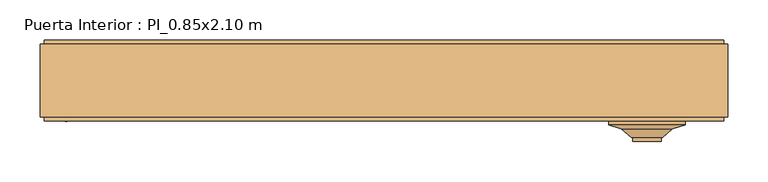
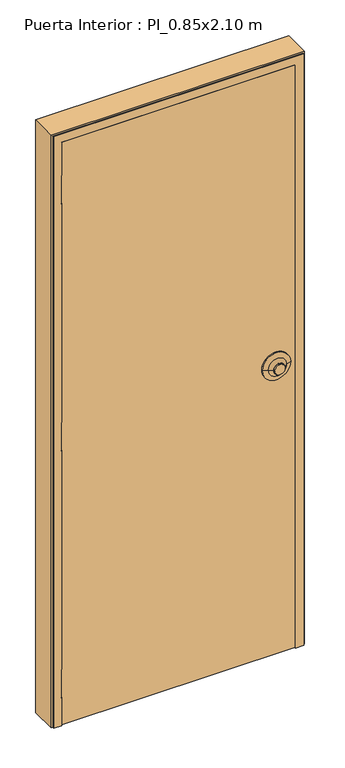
"""IFC4 building model written with IfcOpenShell, lengths in millimetres: door geometry, Puerta Interior : PI_0.85x2.10 m."""

from ifc_helpers import new_model, si_unit, point, frame, frame_2d, origin, place, context, project, spatial, polyline, circle_curve, ellipse_curve, trimmed, segment, composite_curve, outline, extrude, faceted_brep, source, transform, mapped, element, save
from ifc_brep_helpers import plane_surface, cylinder_surface, revolved_surface, advanced_brep


def puerta_interior_pi_0_85x2_10_m_f933acae(model_context):
    return source(origin(), model_context, "Body", "SolidModel", [
        extrude(outline(composite_curve([segment(trimmed(circle_curve(frame_2d((1025.0174632, 325.28125)), 17.5), [point((1025.0174632, 307.78125))], [point((1025.0174632, 342.78125))], False, "CARTESIAN"), True, "CONTINUOUS"), segment(trimmed(circle_curve(frame_2d((1025.0174632, 325.28125)), 17.5), [point((1025.0174632, 342.78125))], [point((1025.0174632, 307.78125))], False, "CARTESIAN"), True, "CONTINUOUS")], self_intersect=False)), frame((0.0, -75.0, 0.0), z_axis=(0.0, 1.0, 0.0), x_axis=(0.0, 0.0, 1.0)), (0.0, 0.0, 1.0), 20.0),
        advanced_brep(
        [(372.78125, -55.0, 1025.0174632), (372.78125, -50.0, 1025.0174632), (277.78125, -50.0, 1025.0174632), (277.78125, -55.0, 1025.0174632), (356.78125, -60.0, 1025.0174632), (293.78125, -60.0, 1025.0174632), (344.9828812, -70.0, 1025.0174632), (305.5796188, -70.0, 1025.0174632), (343.1741787, -70.0, 1025.0174632), (307.3883213, -70.0, 1025.0174632), (343.1741787, -55.0, 1025.0174632), (307.3883213, -55.0, 1025.0174632), (325.28125, -55.0, 1025.0174632), (325.28125, -50.0, 1025.0174632)],
        [
            (0, 1),
            (1, 2, circle_curve(frame((325.28125, -50.0, 1025.0174632), z_axis=(0.0, -1.0, 0.0), x_axis=(-1.0, 0.0, 0.0)), 47.5)),
            (2, 3),
            (3, 0, circle_curve(frame((325.28125, -55.0, 1025.0174632), z_axis=(0.0, 1.0, 0.0), x_axis=(-1.0, 0.0, 0.0)), 47.5)),
            (2, 1, circle_curve(frame((325.28125, -50.0, 1025.0174632), z_axis=(0.0, -1.0, 0.0), x_axis=(-1.0, 0.0, 0.0)), 47.5)),
            (0, 3, circle_curve(frame((325.28125, -55.0, 1025.0174632), z_axis=(0.0, 1.0, 0.0), x_axis=(-1.0, 0.0, 0.0)), 47.5)),
            (4, 0),
            (3, 5),
            (5, 4, circle_curve(frame((325.28125, -60.0, 1025.0174632), z_axis=(0.0, 1.0, 0.0), x_axis=(-1.0, 0.0, 0.0)), 31.5)),
            (4, 5, circle_curve(frame((325.28125, -60.0, 1025.0174632), z_axis=(0.0, 1.0, 0.0), x_axis=(-1.0, 0.0, 0.0)), 31.5)),
            (6, 4),
            (5, 7),
            (7, 6, circle_curve(frame((325.28125, -70.0, 1025.0174632), z_axis=(0.0, 1.0, 0.0), x_axis=(-1.0, 0.0, 0.0)), 19.7016312)),
            (6, 7, circle_curve(frame((325.28125, -70.0, 1025.0174632), z_axis=(0.0, 1.0, 0.0), x_axis=(-1.0, 0.0, 0.0)), 19.7016312)),
            (8, 6),
            (7, 9),
            (9, 8, circle_curve(frame((325.28125, -70.0, 1025.0174632), z_axis=(0.0, 1.0, 0.0), x_axis=(-1.0, 0.0, 0.0)), 17.8929287)),
            (8, 9, circle_curve(frame((325.28125, -70.0, 1025.0174632), z_axis=(0.0, 1.0, 0.0), x_axis=(-1.0, 0.0, 0.0)), 17.8929287)),
            (10, 8),
            (9, 11),
            (11, 10, circle_curve(frame((325.28125, -55.0, 1025.0174632), z_axis=(0.0, 1.0, 0.0), x_axis=(-1.0, 0.0, 0.0)), 17.8929287)),
            (10, 11, circle_curve(frame((325.28125, -55.0, 1025.0174632), z_axis=(0.0, 1.0, 0.0), x_axis=(-1.0, 0.0, 0.0)), 17.8929287)),
            (12, 10),
            (11, 12),
            (1, 13),
            (13, 2),
        ],
        [
            cylinder_surface(frame((325.28125, -50.0, 1025.0174632), z_axis=(0.0, -1.0, 0.0), x_axis=(-1.0, 0.0, 0.0)), 47.5),
            revolved_surface(polyline([(277.78125, -55.0, 1025.0174632), (293.78125, -60.0, 1025.0174632)]), (325.28125, -50.0, 1025.0174632), (0.0, -1.0, 0.0)),
            revolved_surface(polyline([(293.78125, -60.0, 1025.0174632), (305.5796188, -70.0, 1025.0174632)]), (325.28125, -50.0, 1025.0174632), (0.0, -1.0, 0.0)),
            plane_surface(frame((325.28125, -70.0, 1025.0174632), z_axis=(0.0, -1.0, 0.0), x_axis=(-1.0, 0.0, 0.0))),
            revolved_surface(polyline([(307.38832130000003, -70.0, 1025.0174632), (307.38832130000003, -55.0, 1025.0174632)]), (325.28125, -50.0, 1025.0174632), (0.0, -1.0, 0.0)),
            plane_surface(frame((325.28125, -55.0, 1025.0174632), z_axis=(0.0, -1.0, 0.0), x_axis=(-1.0, 0.0, 0.0))),
            plane_surface(frame((325.28125, -50.0, 1025.0174632), z_axis=(0.0, 1.0, 0.0), x_axis=(-1.0, 0.0, 0.0))),
        ],
        [
            (0, [[1, 2, 3, 4]]),
            (0, [[-3, 5, -1, 6]]),
            (1, [[7, -4, 8, 9]]),
            (1, [[-8, -6, -7, 10]]),
            (2, [[11, -9, 12, 13]]),
            (2, [[-12, -10, -11, 14]]),
            (3, [[15, -13, 16, 17]]),
            (3, [[-16, -14, -15, 18]]),
            (4, [[19, -17, 20, 21]]),
            (4, [[-20, -18, -19, 22]]),
            (5, [[23, -21, 24]]),
            (5, [[-24, -22, -23]]),
            (6, [[25, 26, -2]]),
            (6, [[-26, -25, -5]]),
        ],
    ),
        faceted_brep([(425.0, -45.0, 0.0), (420.0, -45.0, 0.0), (420.0, -50.0, 0.0), (392.0, -50.0, 0.0), (392.0, 0.0, 0.0), (375.0, 0.0, 0.0), (375.0, 50.0, 0.0), (420.0, 50.0, 0.0), (420.0, 45.0, 0.0), (425.0, 45.0, 0.0), (425.0, 45.0, 2100.0), (425.0, -45.0, 2100.0), (420.0, 45.0, 2095.0), (-420.0, 45.0, 2095.0), (-420.0, 45.0, 0.0), (-425.0, 45.0, 0.0), (-425.0, 45.0, 2100.0), (420.0, 50.0, 2095.0), (375.0, 50.0, 2050.0), (-375.0, 50.0, 2050.0), (-375.0, 50.0, 0.0), (-420.0, 50.0, 0.0), (-420.0, 50.0, 2095.0), (375.0, 0.0, 2050.0), (392.0, 0.0, 2067.0), (-392.0, 0.0, 2067.0), (-392.0, 0.0, 0.0), (-375.0, 0.0, 0.0), (-375.0, 0.0, 2050.0), (392.0, -50.0, 2067.0), (420.0, -50.0, 2095.0), (-420.0, -50.0, 2095.0), (-420.0, -50.0, 0.0), (-392.0, -50.0, 0.0), (-392.0, -50.0, 100.0349265), (-394.0, -50.0, 100.0349265), (-394.0, -50.0, 200.0349265), (-392.0, -50.0, 200.0349265), (-392.0, -50.0, 975.0174632), (-394.0, -50.0, 975.0174632), (-394.0, -50.0, 1075.0174632), (-392.0, -50.0, 1075.0174632), (-392.0, -50.0, 1850.0), (-394.0, -50.0, 1850.0), (-394.0, -50.0, 1950.0), (-392.0, -50.0, 1950.0), (-392.0, -50.0, 2067.0), (420.0, -45.0, 2095.0), (-425.0, -45.0, 2100.0), (-425.0, -45.0, 0.0), (-420.0, -45.0, 0.0), (-420.0, -45.0, 2095.0), (-392.0, -7.5, 1950.0), (-392.0, -7.5, 1850.0), (-392.0, -7.5, 1075.0174632), (-392.0, -7.5, 975.0174632), (-392.0, -7.5, 200.0349265), (-392.0, -7.5, 100.0349265), (-394.0, -7.5, 100.0349265), (-394.0, -7.5, 200.0349265), (-394.0, -7.5, 975.0174632), (-394.0, -7.5, 1075.0174632), (-394.0, -7.5, 1950.0), (-394.0, -7.5, 1850.0)], [[[0, 1, 2, 3, 4, 5, 6, 7, 8, 9]], [[9, 10, 11, 0]], [[8, 12, 13, 14, 15, 16, 10, 9]], [[7, 17, 12, 8]], [[6, 18, 19, 20, 21, 22, 17, 7]], [[5, 23, 18, 6]], [[4, 24, 25, 26, 27, 28, 23, 5]], [[3, 29, 24, 4]], [[2, 30, 31, 32, 33, 34, 35, 36, 37, 38, 39, 40, 41, 42, 43, 44, 45, 46, 29, 3]], [[1, 47, 30, 2]], [[0, 11, 48, 49, 50, 51, 47, 1]], [[15, 14, 21, 20, 27, 26, 33, 32, 50, 49]], [[16, 15, 49, 48]], [[51, 50, 32, 31]], [[46, 45, 52, 53, 42, 41, 54, 55, 38, 37, 56, 57, 34, 33, 26, 25]], [[28, 27, 20, 19]], [[22, 21, 14, 13]], [[58, 35, 34, 57]], [[58, 57, 56, 59]], [[56, 37, 36, 59]], [[60, 39, 38, 55]], [[60, 55, 54, 61]], [[54, 41, 40, 61]], [[61, 40, 39, 60]], [[59, 36, 35, 58]], [[10, 16, 48, 11]], [[23, 28, 19, 18]], [[29, 46, 25, 24]], [[17, 22, 13, 12]], [[47, 51, 31, 30]], [[62, 44, 43, 63]], [[62, 52, 45, 44]], [[63, 53, 52, 62]], [[43, 42, 53, 63]]]),
        extrude(outline(polyline([(392.0, -48.203125), (392.0, -50.0), (-392.0, -50.0), (-392.0, -48.203125), (392.0, -48.203125)])), frame((0.0, 0.0, 2.5), z_axis=(0.0, 0.0, 1.0), x_axis=(1.0, 0.0, 0.0)), (0.0, 0.0, 1.0), 2064.5),
        advanced_brep(
        [(117.5, 0.0, 395.0087316), (237.0, 0.0, 395.0087316), (237.0, 0.0, 157.5), (117.5, 0.0, 157.5), (312.0, 0.0, 157.5), (257.0, 0.0, 157.5), (257.0, 0.0, 395.0087316), (312.0, 0.0, 395.0087316), (247.0, 0.0, 405.0087316), (247.0, 0.0, 147.5), (107.5, 0.0, 147.5), (107.5, 0.0, 405.0087316), (242.0, 0.0, 152.5), (242.0, 0.0, 400.0087316), (112.5, 0.0, 400.0087316), (112.5, 0.0, 152.5), (37.5, -35.0, 77.5), (317.0, -35.0, 77.5), (317.0, -35.0, 475.0087316), (37.5, -35.0, 475.0087316), (117.5, 5.0, 395.0087316), (117.5, 5.0, 157.5), (37.5, -10.0, 475.0087316), (37.5, -10.0, 77.5), (97.5, 0.0, 415.0087316), (97.5, 0.0, 137.5), (112.5, 5.0, 400.0087316), (112.5, 5.0, 152.5), (237.0, 5.0, 157.5), (317.0, -10.0, 77.5), (257.0, 0.0, 137.5), (242.0, 5.0, 152.5), (237.0, 5.0, 395.0087316), (317.0, -10.0, 475.0087316), (312.0, -9.1666667, 157.5), (312.0, -9.1666667, 395.0087316), (257.0, 0.0, 415.0087316), (242.0, 5.0, 400.0087316)],
        [
            (0, 1),
            (1, 2),
            (2, 3),
            (3, 0),
            (4, 5),
            (5, 6),
            (6, 7),
            (7, 4),
            (8, 9),
            (9, 10),
            (10, 11),
            (11, 8),
            (12, 13),
            (13, 14),
            (14, 15),
            (15, 12),
            (16, 17),
            (17, 18),
            (18, 19),
            (19, 16),
            (20, 0),
            (3, 21),
            (21, 20),
            (22, 23),
            (23, 16),
            (19, 22),
            (22, 24),
            (24, 25),
            (25, 23),
            (24, 11, ellipse_curve(frame((102.5, 0.0, 410.0087316), z_axis=(-0.7071067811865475, 0.0, -0.7071067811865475), x_axis=(-0.7071067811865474, 0.0, 0.7071067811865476)), 7.0710678, 5.0)),
            (10, 25, ellipse_curve(frame((102.5, 0.0, 142.5), z_axis=(-0.7071067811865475, 0.0, 0.7071067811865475), x_axis=(0.7071067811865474, 0.0, 0.7071067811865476)), 7.0710678, 5.0)),
            (26, 27),
            (27, 15),
            (14, 26),
            (2, 28),
            (28, 21),
            (23, 29),
            (29, 17),
            (25, 30),
            (30, 29),
            (9, 30, ellipse_curve(frame((252.0, 0.0, 142.5), z_axis=(-0.7071067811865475, 0.0, -0.7071067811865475), x_axis=(-0.7071067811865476, 0.0, 0.7071067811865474)), 7.0710678, 5.0)),
            (27, 31),
            (31, 12),
            (1, 32),
            (32, 28),
            (29, 33),
            (33, 18),
            (30, 5),
            (5, 34),
            (34, 35),
            (35, 6),
            (6, 36),
            (36, 33),
            (8, 36, ellipse_curve(frame((252.0, 0.0, 410.0087316), z_axis=(0.7071067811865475, 0.0, -0.7071067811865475), x_axis=(-0.7071067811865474, 0.0, -0.7071067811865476)), 7.0710678, 5.0)),
            (31, 37),
            (37, 13),
            (20, 32),
            (33, 22),
            (36, 24),
            (37, 26),
            (4, 34),
            (7, 35),
        ],
        [
            plane_surface(frame((117.5, 0.0, 395.0087316), z_axis=(0.0, 1.0, 0.0), x_axis=(0.0, 0.0, -1.0))),
            plane_surface(frame((117.5, -35.0, 395.0087316), z_axis=(0.0, -1.0, 0.0), x_axis=(0.0, 0.0, 1.0))),
            plane_surface(frame((117.5, 5.0, 395.0087316), z_axis=(1.0, 0.0, 0.0), x_axis=(0.0, 0.0, -1.0))),
            plane_surface(frame((37.5, -35.0, 475.0087316), z_axis=(-1.0, 0.0, 0.0), x_axis=(0.0, 0.0, -1.0))),
            plane_surface(frame((37.5, -10.0, 475.0087316), z_axis=(-0.1643989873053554, 0.9863939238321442, 0.0), x_axis=(0.0, 0.0, -1.0))),
            cylinder_surface(frame((102.5, 0.0, 475.0087316), z_axis=(0.0, 0.0, 1.0), x_axis=(0.0, -1.0, 0.0)), 5.0),
            plane_surface(frame((112.5, 0.0, 400.0087316), z_axis=(-1.0, 0.0, 0.0), x_axis=(0.0, 0.0, -1.0))),
            plane_surface(frame((117.5, 5.0, 157.5), z_axis=(0.0, 0.0, 1.0), x_axis=(1.0, 0.0, 0.0))),
            plane_surface(frame((37.5, -35.0, 77.5), z_axis=(0.0, 0.0, -1.0), x_axis=(1.0, 0.0, 0.0))),
            plane_surface(frame((37.5, -10.0, 77.5), z_axis=(0.0, 0.9863939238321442, -0.1643989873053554), x_axis=(1.0, 0.0, 0.0))),
            cylinder_surface(frame((37.5, 0.0, 142.5), z_axis=(-1.0, 0.0, 0.0), x_axis=(0.0, -1.0, 0.0)), 5.0),
            plane_surface(frame((112.5, 0.0, 152.5), z_axis=(0.0, 0.0, -1.0), x_axis=(1.0, 0.0, 0.0))),
            plane_surface(frame((237.0, 5.0, 157.5), z_axis=(-1.0, 0.0, 0.0), x_axis=(0.0, 0.0, 1.0))),
            plane_surface(frame((317.0, -35.0, 77.5), z_axis=(1.0, 0.0, 0.0), x_axis=(0.0, 0.0, 1.0))),
            plane_surface(frame((317.0, -10.0, 77.5), z_axis=(0.1643989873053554, 0.9863939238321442, 0.0), x_axis=(0.0, 0.0, 1.0))),
            cylinder_surface(frame((252.0, 0.0, 77.5), z_axis=(0.0, 0.0, -1.0), x_axis=(0.0, -1.0, 0.0)), 5.0),
            plane_surface(frame((242.0, 0.0, 152.5), z_axis=(1.0, 0.0, 0.0), x_axis=(0.0, 0.0, 1.0))),
            plane_surface(frame((237.0, 5.0, 395.0087316), z_axis=(0.0, 0.0, -1.0), x_axis=(-1.0, 0.0, 0.0))),
            plane_surface(frame((317.0, -35.0, 475.0087316), z_axis=(0.0, 0.0, 1.0), x_axis=(-1.0, 0.0, 0.0))),
            plane_surface(frame((317.0, -10.0, 475.0087316), z_axis=(0.0, 0.9863939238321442, 0.1643989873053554), x_axis=(-1.0, 0.0, 0.0))),
            cylinder_surface(frame((317.0, 0.0, 410.0087316), z_axis=(1.0, 0.0, 0.0), x_axis=(0.0, -1.0, 0.0)), 5.0),
            plane_surface(frame((242.0, 0.0, 400.0087316), z_axis=(0.0, 0.0, 1.0), x_axis=(-1.0, 0.0, 0.0))),
            plane_surface(frame((242.0, 5.0, 400.0087316), z_axis=(0.0, 1.0, 0.0), x_axis=(-1.0, 0.0, 0.0))),
            plane_surface(frame((117.5, 0.0, 157.5), z_axis=(0.0, 0.0, -1.0), x_axis=(0.0, -1.0, 0.0))),
            plane_surface(frame((312.0, 0.0, 157.5), z_axis=(1.0, 0.0, 0.0), x_axis=(0.0, -1.0, 0.0))),
            plane_surface(frame((312.0, 0.0, 395.0087316), z_axis=(0.0, 0.0, 1.0), x_axis=(0.0, -1.0, 0.0))),
        ],
        [
            (0, [[1, 2, 3, 4]]),
            (0, [[5, 6, 7, 8]]),
            (0, [[9, 10, 11, 12], [13, 14, 15, 16]]),
            (1, [[17, 18, 19, 20]]),
            (2, [[21, -4, 22, 23]]),
            (3, [[24, 25, -20, 26]]),
            (4, [[27, 28, 29, -24]]),
            (5, [[30, -11, 31, -28]]),
            (6, [[32, 33, -15, 34]]),
            (7, [[-22, -3, 35, 36]]),
            (8, [[37, 38, -17, -25]]),
            (9, [[39, 40, -37, -29]]),
            (10, [[-10, 41, -39, -31]]),
            (11, [[42, 43, -16, -33]]),
            (12, [[-35, -2, 44, 45]]),
            (13, [[46, 47, -18, -38]]),
            (14, [[48, 49, 50, 51, 52, 53, -46, -40]]),
            (15, [[54, -52, -6, -48, -41, -9]]),
            (16, [[55, 56, -13, -43]]),
            (17, [[-44, -1, -21, 57]]),
            (18, [[-19, -47, 58, -26]]),
            (19, [[-58, -53, 59, -27]]),
            (20, [[-59, -54, -12, -30]]),
            (21, [[-14, -56, 60, -34]]),
            (22, [[-60, -55, -42, -32], [-36, -45, -57, -23]]),
            (23, [[61, -49, -5]]),
            (24, [[62, -50, -61, -8]]),
            (25, [[-51, -62, -7]]),
        ],
    ),
        advanced_brep(
        [(-237.0, 0.0, 395.0087316), (-117.5, 0.0, 395.0087316), (-117.5, 0.0, 157.5), (-237.0, 0.0, 157.5), (-317.0, -35.0, 77.5), (-37.5, -35.0, 77.5), (-37.5, -35.0, 475.0087316), (-317.0, -35.0, 475.0087316), (-237.0, 5.0, 395.0087316), (-237.0, 5.0, 157.5), (-317.0, -10.0, 475.0087316), (-317.0, -10.0, 77.5), (-257.0, 0.0, 415.0087316), (-257.0, 0.0, 137.5), (-247.0, 0.0, 405.0087316), (-247.0, 0.0, 147.5), (-242.0, 5.0, 400.0087316), (-242.0, 5.0, 152.5), (-242.0, 0.0, 152.5), (-242.0, 0.0, 400.0087316), (-117.5, 5.0, 157.5), (-37.5, -10.0, 77.5), (-97.5, 0.0, 137.5), (-107.5, 0.0, 147.5), (-112.5, 5.0, 152.5), (-112.5, 0.0, 152.5), (-117.5, 5.0, 395.0087316), (-37.5, -10.0, 475.0087316), (-97.5, 0.0, 415.0087316), (-107.5, 0.0, 405.0087316), (-112.5, 5.0, 400.0087316), (-112.5, 0.0, 400.0087316)],
        [
            (0, 1),
            (1, 2),
            (2, 3),
            (3, 0),
            (4, 5),
            (5, 6),
            (6, 7),
            (7, 4),
            (8, 0),
            (3, 9),
            (9, 8),
            (10, 11),
            (11, 4),
            (7, 10),
            (10, 12),
            (12, 13),
            (13, 11),
            (12, 14, ellipse_curve(frame((-252.0, 0.0, 410.0087316), z_axis=(-0.7071067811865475, 0.0, -0.7071067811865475), x_axis=(-0.7071067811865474, 0.0, 0.7071067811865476)), 7.0710678, 5.0)),
            (14, 15),
            (15, 13, ellipse_curve(frame((-252.0, 0.0, 142.5), z_axis=(-0.7071067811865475, 0.0, 0.7071067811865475), x_axis=(0.7071067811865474, 0.0, 0.7071067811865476)), 7.0710678, 5.0)),
            (16, 17),
            (17, 18),
            (18, 19),
            (19, 16),
            (2, 20),
            (20, 9),
            (11, 21),
            (21, 5),
            (13, 22),
            (22, 21),
            (15, 23),
            (23, 22, ellipse_curve(frame((-102.5, 0.0, 142.5), z_axis=(-0.7071067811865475, 0.0, -0.7071067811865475), x_axis=(-0.7071067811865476, 0.0, 0.7071067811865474)), 7.0710678, 5.0)),
            (17, 24),
            (24, 25),
            (25, 18),
            (1, 26),
            (26, 20),
            (21, 27),
            (27, 6),
            (22, 28),
            (28, 27),
            (23, 29),
            (29, 28, ellipse_curve(frame((-102.5, 0.0, 410.0087316), z_axis=(0.7071067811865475, 0.0, -0.7071067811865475), x_axis=(-0.7071067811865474, 0.0, -0.7071067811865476)), 7.0710678, 5.0)),
            (24, 30),
            (30, 31),
            (31, 25),
            (8, 26),
            (27, 10),
            (28, 12),
            (29, 14),
            (31, 19),
            (30, 16),
        ],
        [
            plane_surface(frame((-237.0, 0.0, 395.0087316), z_axis=(0.0, 1.0, 0.0), x_axis=(0.0, 0.0, -1.0))),
            plane_surface(frame((-237.0, -35.0, 395.0087316), z_axis=(0.0, -1.0, 0.0), x_axis=(0.0, 0.0, 1.0))),
            plane_surface(frame((-237.0, 5.0, 395.0087316), z_axis=(1.0, 0.0, 0.0), x_axis=(0.0, 0.0, -1.0))),
            plane_surface(frame((-317.0, -35.0, 475.0087316), z_axis=(-1.0, 0.0, 0.0), x_axis=(0.0, 0.0, -1.0))),
            plane_surface(frame((-317.0, -10.0, 475.0087316), z_axis=(-0.1643989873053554, 0.9863939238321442, 0.0), x_axis=(0.0, 0.0, -1.0))),
            cylinder_surface(frame((-252.0, 0.0, 475.0087316), z_axis=(0.0, 0.0, 1.0), x_axis=(0.0, -1.0, 0.0)), 5.0),
            plane_surface(frame((-242.0, 0.0, 400.0087316), z_axis=(-1.0, 0.0, 0.0), x_axis=(0.0, 0.0, -1.0))),
            plane_surface(frame((-237.0, 5.0, 157.5), z_axis=(0.0, 0.0, 1.0), x_axis=(1.0, 0.0, 0.0))),
            plane_surface(frame((-317.0, -35.0, 77.5), z_axis=(0.0, 0.0, -1.0), x_axis=(1.0, 0.0, 0.0))),
            plane_surface(frame((-317.0, -10.0, 77.5), z_axis=(0.0, 0.9863939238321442, -0.1643989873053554), x_axis=(1.0, 0.0, 0.0))),
            cylinder_surface(frame((-317.0, 0.0, 142.5), z_axis=(-1.0, 0.0, 0.0), x_axis=(0.0, -1.0, 0.0)), 5.0),
            plane_surface(frame((-242.0, 0.0, 152.5), z_axis=(0.0, 0.0, -1.0), x_axis=(1.0, 0.0, 0.0))),
            plane_surface(frame((-117.5, 5.0, 157.5), z_axis=(-1.0, 0.0, 0.0), x_axis=(0.0, 0.0, 1.0))),
            plane_surface(frame((-37.5, -35.0, 77.5), z_axis=(1.0, 0.0, 0.0), x_axis=(0.0, 0.0, 1.0))),
            plane_surface(frame((-37.5, -10.0, 77.5), z_axis=(0.1643989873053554, 0.9863939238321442, 0.0), x_axis=(0.0, 0.0, 1.0))),
            cylinder_surface(frame((-102.5, 0.0, 77.5), z_axis=(0.0, 0.0, -1.0), x_axis=(0.0, -1.0, 0.0)), 5.0),
            plane_surface(frame((-112.5, 0.0, 152.5), z_axis=(1.0, 0.0, 0.0), x_axis=(0.0, 0.0, 1.0))),
            plane_surface(frame((-117.5, 5.0, 395.0087316), z_axis=(0.0, 0.0, -1.0), x_axis=(-1.0, 0.0, 0.0))),
            plane_surface(frame((-37.5, -35.0, 475.0087316), z_axis=(0.0, 0.0, 1.0), x_axis=(-1.0, 0.0, 0.0))),
            plane_surface(frame((-37.5, -10.0, 475.0087316), z_axis=(0.0, 0.9863939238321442, 0.1643989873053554), x_axis=(-1.0, 0.0, 0.0))),
            cylinder_surface(frame((-37.5, 0.0, 410.0087316), z_axis=(1.0, 0.0, 0.0), x_axis=(0.0, -1.0, 0.0)), 5.0),
            plane_surface(frame((-107.5, 0.0, 405.0087316), z_axis=(0.0, 1.0, 0.0), x_axis=(-1.0, 0.0, 0.0))),
            plane_surface(frame((-112.5, 0.0, 400.0087316), z_axis=(0.0, 0.0, 1.0), x_axis=(-1.0, 0.0, 0.0))),
            plane_surface(frame((-112.5, 5.0, 400.0087316), z_axis=(0.0, 1.0, 0.0), x_axis=(-1.0, 0.0, 0.0))),
        ],
        [
            (0, [[1, 2, 3, 4]]),
            (1, [[5, 6, 7, 8]]),
            (2, [[9, -4, 10, 11]]),
            (3, [[12, 13, -8, 14]]),
            (4, [[15, 16, 17, -12]]),
            (5, [[18, 19, 20, -16]]),
            (6, [[21, 22, 23, 24]]),
            (7, [[-10, -3, 25, 26]]),
            (8, [[27, 28, -5, -13]]),
            (9, [[29, 30, -27, -17]]),
            (10, [[31, 32, -29, -20]]),
            (11, [[33, 34, 35, -22]]),
            (12, [[-25, -2, 36, 37]]),
            (13, [[38, 39, -6, -28]]),
            (14, [[40, 41, -38, -30]]),
            (15, [[42, 43, -40, -32]]),
            (16, [[44, 45, 46, -34]]),
            (17, [[-36, -1, -9, 47]]),
            (18, [[-7, -39, 48, -14]]),
            (19, [[-48, -41, 49, -15]]),
            (20, [[-49, -43, 50, -18]]),
            (21, [[-50, -42, -31, -19], [-35, -46, 51, -23]]),
            (22, [[-51, -45, 52, -24]]),
            (23, [[-52, -44, -33, -21], [-26, -37, -47, -11]]),
        ],
    ),
        advanced_brep(
        [(-237.0, 0.0, 907.5174632), (-117.5, 0.0, 907.5174632), (-117.5, 0.0, 630.0087316), (-237.0, 0.0, 630.0087316), (-317.0, -35.0, 550.0087316), (-37.5, -35.0, 550.0087316), (-37.5, -35.0, 987.5174632), (-317.0, -35.0, 987.5174632), (-237.0, 5.0, 907.5174632), (-237.0, 5.0, 630.0087316), (-317.0, -10.0, 987.5174632), (-317.0, -10.0, 550.0087316), (-257.0, 0.0, 927.5174632), (-257.0, 0.0, 610.0087316), (-247.0, 0.0, 917.5174632), (-247.0, 0.0, 620.0087316), (-242.0, 5.0, 912.5174632), (-242.0, 5.0, 625.0087316), (-242.0, 0.0, 625.0087316), (-242.0, 0.0, 912.5174632), (-117.5, 5.0, 630.0087316), (-37.5, -10.0, 550.0087316), (-97.5, 0.0, 610.0087316), (-107.5, 0.0, 620.0087316), (-112.5, 5.0, 625.0087316), (-112.5, 0.0, 625.0087316), (-117.5, 5.0, 907.5174632), (-37.5, -10.0, 987.5174632), (-97.5, 0.0, 927.5174632), (-107.5, 0.0, 917.5174632), (-112.5, 5.0, 912.5174632), (-112.5, 0.0, 912.5174632)],
        [
            (0, 1),
            (1, 2),
            (2, 3),
            (3, 0),
            (4, 5),
            (5, 6),
            (6, 7),
            (7, 4),
            (8, 0),
            (3, 9),
            (9, 8),
            (10, 11),
            (11, 4),
            (7, 10),
            (10, 12),
            (12, 13),
            (13, 11),
            (12, 14, ellipse_curve(frame((-252.0, 0.0, 922.5174632), z_axis=(-0.7071067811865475, 0.0, -0.7071067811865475), x_axis=(-0.7071067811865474, 0.0, 0.7071067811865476)), 7.0710678, 5.0)),
            (14, 15),
            (15, 13, ellipse_curve(frame((-252.0, 0.0, 615.0087316), z_axis=(-0.7071067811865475, 0.0, 0.7071067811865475), x_axis=(0.7071067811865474, 0.0, 0.7071067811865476)), 7.0710678, 5.0)),
            (16, 17),
            (17, 18),
            (18, 19),
            (19, 16),
            (2, 20),
            (20, 9),
            (11, 21),
            (21, 5),
            (13, 22),
            (22, 21),
            (15, 23),
            (23, 22, ellipse_curve(frame((-102.5, 0.0, 615.0087316), z_axis=(-0.7071067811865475, 0.0, -0.7071067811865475), x_axis=(-0.7071067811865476, 0.0, 0.7071067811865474)), 7.0710678, 5.0)),
            (17, 24),
            (24, 25),
            (25, 18),
            (1, 26),
            (26, 20),
            (21, 27),
            (27, 6),
            (22, 28),
            (28, 27),
            (23, 29),
            (29, 28, ellipse_curve(frame((-102.5, 0.0, 922.5174632), z_axis=(0.7071067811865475, 0.0, -0.7071067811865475), x_axis=(-0.7071067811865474, 0.0, -0.7071067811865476)), 7.0710678, 5.0)),
            (24, 30),
            (30, 31),
            (31, 25),
            (8, 26),
            (27, 10),
            (28, 12),
            (29, 14),
            (31, 19),
            (30, 16),
        ],
        [
            plane_surface(frame((-237.0, 0.0, 907.5174632), z_axis=(0.0, 1.0, 0.0), x_axis=(0.0, 0.0, -1.0))),
            plane_surface(frame((-237.0, -35.0, 907.5174632), z_axis=(0.0, -1.0, 0.0), x_axis=(0.0, 0.0, 1.0))),
            plane_surface(frame((-237.0, 5.0, 907.5174632), z_axis=(1.0, 0.0, 0.0), x_axis=(0.0, 0.0, -1.0))),
            plane_surface(frame((-317.0, -35.0, 987.5174632), z_axis=(-1.0, 0.0, 0.0), x_axis=(0.0, 0.0, -1.0))),
            plane_surface(frame((-317.0, -10.0, 987.5174632), z_axis=(-0.1643989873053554, 0.9863939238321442, 0.0), x_axis=(0.0, 0.0, -1.0))),
            cylinder_surface(frame((-252.0, 0.0, 987.5174632), z_axis=(0.0, 0.0, 1.0), x_axis=(0.0, -1.0, 0.0)), 5.0),
            plane_surface(frame((-242.0, 0.0, 912.5174632), z_axis=(-1.0, 0.0, 0.0), x_axis=(0.0, 0.0, -1.0))),
            plane_surface(frame((-237.0, 5.0, 630.0087316), z_axis=(0.0, 0.0, 1.0), x_axis=(1.0, 0.0, 0.0))),
            plane_surface(frame((-317.0, -35.0, 550.0087316), z_axis=(0.0, 0.0, -1.0), x_axis=(1.0, 0.0, 0.0))),
            plane_surface(frame((-317.0, -10.0, 550.0087316), z_axis=(0.0, 0.9863939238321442, -0.1643989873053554), x_axis=(1.0, 0.0, 0.0))),
            cylinder_surface(frame((-317.0, 0.0, 615.0087316), z_axis=(-1.0, 0.0, 0.0), x_axis=(0.0, -1.0, 0.0)), 5.0),
            plane_surface(frame((-242.0, 0.0, 625.0087316), z_axis=(0.0, 0.0, -1.0), x_axis=(1.0, 0.0, 0.0))),
            plane_surface(frame((-117.5, 5.0, 630.0087316), z_axis=(-1.0, 0.0, 0.0), x_axis=(0.0, 0.0, 1.0))),
            plane_surface(frame((-37.5, -35.0, 550.0087316), z_axis=(1.0, 0.0, 0.0), x_axis=(0.0, 0.0, 1.0))),
            plane_surface(frame((-37.5, -10.0, 550.0087316), z_axis=(0.1643989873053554, 0.9863939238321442, 0.0), x_axis=(0.0, 0.0, 1.0))),
            cylinder_surface(frame((-102.5, 0.0, 550.0087316), z_axis=(0.0, 0.0, -1.0), x_axis=(0.0, -1.0, 0.0)), 5.0),
            plane_surface(frame((-112.5, 0.0, 625.0087316), z_axis=(1.0, 0.0, 0.0), x_axis=(0.0, 0.0, 1.0))),
            plane_surface(frame((-117.5, 5.0, 907.5174632), z_axis=(0.0, 0.0, -1.0), x_axis=(-1.0, 0.0, 0.0))),
            plane_surface(frame((-37.5, -35.0, 987.5174632), z_axis=(0.0, 0.0, 1.0), x_axis=(-1.0, 0.0, 0.0))),
            plane_surface(frame((-37.5, -10.0, 987.5174632), z_axis=(0.0, 0.9863939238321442, 0.1643989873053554), x_axis=(-1.0, 0.0, 0.0))),
            cylinder_surface(frame((-37.5, 0.0, 922.5174632), z_axis=(1.0, 0.0, 0.0), x_axis=(0.0, -1.0, 0.0)), 5.0),
            plane_surface(frame((-107.5, 0.0, 917.5174632), z_axis=(0.0, 1.0, 0.0), x_axis=(-1.0, 0.0, 0.0))),
            plane_surface(frame((-112.5, 0.0, 912.5174632), z_axis=(0.0, 0.0, 1.0), x_axis=(-1.0, 0.0, 0.0))),
            plane_surface(frame((-112.5, 5.0, 912.5174632), z_axis=(0.0, 1.0, 0.0), x_axis=(-1.0, 0.0, 0.0))),
        ],
        [
            (0, [[1, 2, 3, 4]]),
            (1, [[5, 6, 7, 8]]),
            (2, [[9, -4, 10, 11]]),
            (3, [[12, 13, -8, 14]]),
            (4, [[15, 16, 17, -12]]),
            (5, [[18, 19, 20, -16]]),
            (6, [[21, 22, 23, 24]]),
            (7, [[-10, -3, 25, 26]]),
            (8, [[27, 28, -5, -13]]),
            (9, [[29, 30, -27, -17]]),
            (10, [[31, 32, -29, -20]]),
            (11, [[33, 34, 35, -22]]),
            (12, [[-25, -2, 36, 37]]),
            (13, [[38, 39, -6, -28]]),
            (14, [[40, 41, -38, -30]]),
            (15, [[42, 43, -40, -32]]),
            (16, [[44, 45, 46, -34]]),
            (17, [[-36, -1, -9, 47]]),
            (18, [[-7, -39, 48, -14]]),
            (19, [[-48, -41, 49, -15]]),
            (20, [[-49, -43, 50, -18]]),
            (21, [[-50, -42, -31, -19], [-35, -46, 51, -23]]),
            (22, [[-51, -45, 52, -24]]),
            (23, [[-52, -44, -33, -21], [-26, -37, -47, -11]]),
        ],
    ),
        advanced_brep(
        [(117.5, 0.0, 907.5174632), (237.0, 0.0, 907.5174632), (237.0, 0.0, 630.0087316), (117.5, 0.0, 630.0087316), (312.0, 0.0, 630.0087316), (257.0, 0.0, 630.0087316), (257.0, 0.0, 907.5174632), (312.0, 0.0, 907.5174632), (247.0, 0.0, 917.5174632), (247.0, 0.0, 620.0087316), (107.5, 0.0, 620.0087316), (107.5, 0.0, 917.5174632), (242.0, 0.0, 625.0087316), (242.0, 0.0, 912.5174632), (112.5, 0.0, 912.5174632), (112.5, 0.0, 625.0087316), (37.5, -35.0, 550.0087316), (317.0, -35.0, 550.0087316), (317.0, -35.0, 987.5174632), (37.5, -35.0, 987.5174632), (117.5, 5.0, 907.5174632), (117.5, 5.0, 630.0087316), (37.5, -10.0, 987.5174632), (37.5, -10.0, 550.0087316), (97.5, 0.0, 927.5174632), (97.5, 0.0, 610.0087316), (112.5, 5.0, 912.5174632), (112.5, 5.0, 625.0087316), (237.0, 5.0, 630.0087316), (317.0, -10.0, 550.0087316), (257.0, 0.0, 610.0087316), (242.0, 5.0, 625.0087316), (237.0, 5.0, 907.5174632), (317.0, -10.0, 987.5174632), (312.0, -9.1666667, 630.0087316), (312.0, -9.1666667, 907.5174632), (257.0, 0.0, 927.5174632), (242.0, 5.0, 912.5174632)],
        [
            (0, 1),
            (1, 2),
            (2, 3),
            (3, 0),
            (4, 5),
            (5, 6),
            (6, 7),
            (7, 4),
            (8, 9),
            (9, 10),
            (10, 11),
            (11, 8),
            (12, 13),
            (13, 14),
            (14, 15),
            (15, 12),
            (16, 17),
            (17, 18),
            (18, 19),
            (19, 16),
            (20, 0),
            (3, 21),
            (21, 20),
            (22, 23),
            (23, 16),
            (19, 22),
            (22, 24),
            (24, 25),
            (25, 23),
            (24, 11, ellipse_curve(frame((102.5, 0.0, 922.5174632), z_axis=(-0.7071067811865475, 0.0, -0.7071067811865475), x_axis=(-0.7071067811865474, 0.0, 0.7071067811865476)), 7.0710678, 5.0)),
            (10, 25, ellipse_curve(frame((102.5, 0.0, 615.0087316), z_axis=(-0.7071067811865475, 0.0, 0.7071067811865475), x_axis=(0.7071067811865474, 0.0, 0.7071067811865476)), 7.0710678, 5.0)),
            (26, 27),
            (27, 15),
            (14, 26),
            (2, 28),
            (28, 21),
            (23, 29),
            (29, 17),
            (25, 30),
            (30, 29),
            (9, 30, ellipse_curve(frame((252.0, 0.0, 615.0087316), z_axis=(-0.7071067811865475, 0.0, -0.7071067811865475), x_axis=(-0.7071067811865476, 0.0, 0.7071067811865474)), 7.0710678, 5.0)),
            (27, 31),
            (31, 12),
            (1, 32),
            (32, 28),
            (29, 33),
            (33, 18),
            (30, 5),
            (5, 34),
            (34, 35),
            (35, 6),
            (6, 36),
            (36, 33),
            (8, 36, ellipse_curve(frame((252.0, 0.0, 922.5174632), z_axis=(0.7071067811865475, 0.0, -0.7071067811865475), x_axis=(-0.7071067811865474, 0.0, -0.7071067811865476)), 7.0710678, 5.0)),
            (31, 37),
            (37, 13),
            (20, 32),
            (33, 22),
            (36, 24),
            (37, 26),
            (4, 34),
            (7, 35),
        ],
        [
            plane_surface(frame((117.5, 0.0, 907.5174632), z_axis=(0.0, 1.0, 0.0), x_axis=(0.0, 0.0, -1.0))),
            plane_surface(frame((117.5, -35.0, 907.5174632), z_axis=(0.0, -1.0, 0.0), x_axis=(0.0, 0.0, 1.0))),
            plane_surface(frame((117.5, 5.0, 907.5174632), z_axis=(1.0, 0.0, 0.0), x_axis=(0.0, 0.0, -1.0))),
            plane_surface(frame((37.5, -35.0, 987.5174632), z_axis=(-1.0, 0.0, 0.0), x_axis=(0.0, 0.0, -1.0))),
            plane_surface(frame((37.5, -10.0, 987.5174632), z_axis=(-0.1643989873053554, 0.9863939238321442, 0.0), x_axis=(0.0, 0.0, -1.0))),
            cylinder_surface(frame((102.5, 0.0, 987.5174632), z_axis=(0.0, 0.0, 1.0), x_axis=(0.0, -1.0, 0.0)), 5.0),
            plane_surface(frame((112.5, 0.0, 912.5174632), z_axis=(-1.0, 0.0, 0.0), x_axis=(0.0, 0.0, -1.0))),
            plane_surface(frame((117.5, 5.0, 630.0087316), z_axis=(0.0, 0.0, 1.0), x_axis=(1.0, 0.0, 0.0))),
            plane_surface(frame((37.5, -35.0, 550.0087316), z_axis=(0.0, 0.0, -1.0), x_axis=(1.0, 0.0, 0.0))),
            plane_surface(frame((37.5, -10.0, 550.0087316), z_axis=(0.0, 0.9863939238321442, -0.1643989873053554), x_axis=(1.0, 0.0, 0.0))),
            cylinder_surface(frame((37.5, 0.0, 615.0087316), z_axis=(-1.0, 0.0, 0.0), x_axis=(0.0, -1.0, 0.0)), 5.0),
            plane_surface(frame((112.5, 0.0, 625.0087316), z_axis=(0.0, 0.0, -1.0), x_axis=(1.0, 0.0, 0.0))),
            plane_surface(frame((237.0, 5.0, 630.0087316), z_axis=(-1.0, 0.0, 0.0), x_axis=(0.0, 0.0, 1.0))),
            plane_surface(frame((317.0, -35.0, 550.0087316), z_axis=(1.0, 0.0, 0.0), x_axis=(0.0, 0.0, 1.0))),
            plane_surface(frame((317.0, -10.0, 550.0087316), z_axis=(0.1643989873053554, 0.9863939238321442, 0.0), x_axis=(0.0, 0.0, 1.0))),
            cylinder_surface(frame((252.0, 0.0, 550.0087316), z_axis=(0.0, 0.0, -1.0), x_axis=(0.0, -1.0, 0.0)), 5.0),
            plane_surface(frame((242.0, 0.0, 625.0087316), z_axis=(1.0, 0.0, 0.0), x_axis=(0.0, 0.0, 1.0))),
            plane_surface(frame((237.0, 5.0, 907.5174632), z_axis=(0.0, 0.0, -1.0), x_axis=(-1.0, 0.0, 0.0))),
            plane_surface(frame((317.0, -35.0, 987.5174632), z_axis=(0.0, 0.0, 1.0), x_axis=(-1.0, 0.0, 0.0))),
            plane_surface(frame((317.0, -10.0, 987.5174632), z_axis=(0.0, 0.9863939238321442, 0.1643989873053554), x_axis=(-1.0, 0.0, 0.0))),
            cylinder_surface(frame((317.0, 0.0, 922.5174632), z_axis=(1.0, 0.0, 0.0), x_axis=(0.0, -1.0, 0.0)), 5.0),
            plane_surface(frame((242.0, 0.0, 912.5174632), z_axis=(0.0, 0.0, 1.0), x_axis=(-1.0, 0.0, 0.0))),
            plane_surface(frame((242.0, 5.0, 912.5174632), z_axis=(0.0, 1.0, 0.0), x_axis=(-1.0, 0.0, 0.0))),
            plane_surface(frame((117.5, 0.0, 630.0087316), z_axis=(0.0, 0.0, -1.0), x_axis=(0.0, -1.0, 0.0))),
            plane_surface(frame((312.0, 0.0, 630.0087316), z_axis=(1.0, 0.0, 0.0), x_axis=(0.0, -1.0, 0.0))),
            plane_surface(frame((312.0, 0.0, 907.5174632), z_axis=(0.0, 0.0, 1.0), x_axis=(0.0, -1.0, 0.0))),
        ],
        [
            (0, [[1, 2, 3, 4]]),
            (0, [[5, 6, 7, 8]]),
            (0, [[9, 10, 11, 12], [13, 14, 15, 16]]),
            (1, [[17, 18, 19, 20]]),
            (2, [[21, -4, 22, 23]]),
            (3, [[24, 25, -20, 26]]),
            (4, [[27, 28, 29, -24]]),
            (5, [[30, -11, 31, -28]]),
            (6, [[32, 33, -15, 34]]),
            (7, [[-22, -3, 35, 36]]),
            (8, [[37, 38, -17, -25]]),
            (9, [[39, 40, -37, -29]]),
            (10, [[-10, 41, -39, -31]]),
            (11, [[42, 43, -16, -33]]),
            (12, [[-35, -2, 44, 45]]),
            (13, [[46, 47, -18, -38]]),
            (14, [[48, 49, 50, 51, 52, 53, -46, -40]]),
            (15, [[54, -52, -6, -48, -41, -9]]),
            (16, [[55, 56, -13, -43]]),
            (17, [[-44, -1, -21, 57]]),
            (18, [[-19, -47, 58, -26]]),
            (19, [[-58, -53, 59, -27]]),
            (20, [[-59, -54, -12, -30]]),
            (21, [[-14, -56, 60, -34]]),
            (22, [[-60, -55, -42, -32], [-36, -45, -57, -23]]),
            (23, [[61, -49, -5]]),
            (24, [[62, -50, -61, -8]]),
            (25, [[-51, -62, -7]]),
        ],
    ),
        advanced_brep(
        [(117.5, 0.0, 1445.0087316), (237.0, 0.0, 1445.0087316), (237.0, 0.0, 1142.5174632), (117.5, 0.0, 1142.5174632), (312.0, 0.0, 1142.5174632), (257.0, 0.0, 1142.5174632), (257.0, 0.0, 1445.0087316), (312.0, 0.0, 1445.0087316), (247.0, 0.0, 1455.0087316), (247.0, 0.0, 1132.5174632), (107.5, 0.0, 1132.5174632), (107.5, 0.0, 1455.0087316), (242.0, 0.0, 1137.5174632), (242.0, 0.0, 1450.0087316), (112.5, 0.0, 1450.0087316), (112.5, 0.0, 1137.5174632), (37.5, -35.0, 1062.5174632), (317.0, -35.0, 1062.5174632), (317.0, -35.0, 1525.0087316), (37.5, -35.0, 1525.0087316), (117.5, 5.0, 1445.0087316), (117.5, 5.0, 1142.5174632), (37.5, -10.0, 1525.0087316), (37.5, -10.0, 1062.5174632), (97.5, 0.0, 1465.0087316), (97.5, 0.0, 1122.5174632), (112.5, 5.0, 1450.0087316), (112.5, 5.0, 1137.5174632), (237.0, 5.0, 1142.5174632), (317.0, -10.0, 1062.5174632), (257.0, 0.0, 1122.5174632), (242.0, 5.0, 1137.5174632), (237.0, 5.0, 1445.0087316), (317.0, -10.0, 1525.0087316), (312.0, -9.1666667, 1142.5174632), (312.0, -9.1666667, 1445.0087316), (257.0, 0.0, 1465.0087316), (242.0, 5.0, 1450.0087316)],
        [
            (0, 1),
            (1, 2),
            (2, 3),
            (3, 0),
            (4, 5),
            (5, 6),
            (6, 7),
            (7, 4),
            (8, 9),
            (9, 10),
            (10, 11),
            (11, 8),
            (12, 13),
            (13, 14),
            (14, 15),
            (15, 12),
            (16, 17),
            (17, 18),
            (18, 19),
            (19, 16),
            (20, 0),
            (3, 21),
            (21, 20),
            (22, 23),
            (23, 16),
            (19, 22),
            (22, 24),
            (24, 25),
            (25, 23),
            (24, 11, ellipse_curve(frame((102.5, 0.0, 1460.0087316), z_axis=(-0.7071067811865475, 0.0, -0.7071067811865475), x_axis=(-0.7071067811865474, 0.0, 0.7071067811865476)), 7.0710678, 5.0)),
            (10, 25, ellipse_curve(frame((102.5, 0.0, 1127.5174632), z_axis=(-0.7071067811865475, 0.0, 0.7071067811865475), x_axis=(0.7071067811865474, 0.0, 0.7071067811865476)), 7.0710678, 5.0)),
            (26, 27),
            (27, 15),
            (14, 26),
            (2, 28),
            (28, 21),
            (23, 29),
            (29, 17),
            (25, 30),
            (30, 29),
            (9, 30, ellipse_curve(frame((252.0, 0.0, 1127.5174632), z_axis=(-0.7071067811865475, 0.0, -0.7071067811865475), x_axis=(-0.7071067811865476, 0.0, 0.7071067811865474)), 7.0710678, 5.0)),
            (27, 31),
            (31, 12),
            (1, 32),
            (32, 28),
            (29, 33),
            (33, 18),
            (30, 5),
            (5, 34),
            (34, 35),
            (35, 6),
            (6, 36),
            (36, 33),
            (8, 36, ellipse_curve(frame((252.0, 0.0, 1460.0087316), z_axis=(0.7071067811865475, 0.0, -0.7071067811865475), x_axis=(-0.7071067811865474, 0.0, -0.7071067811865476)), 7.0710678, 5.0)),
            (31, 37),
            (37, 13),
            (20, 32),
            (33, 22),
            (36, 24),
            (37, 26),
            (4, 34),
            (7, 35),
        ],
        [
            plane_surface(frame((117.5, 0.0, 1445.0087316), z_axis=(0.0, 1.0, 0.0), x_axis=(0.0, 0.0, -1.0))),
            plane_surface(frame((117.5, -35.0, 1445.0087316), z_axis=(0.0, -1.0, 0.0), x_axis=(0.0, 0.0, 1.0))),
            plane_surface(frame((117.5, 5.0, 1445.0087316), z_axis=(1.0, 0.0, 0.0), x_axis=(0.0, 0.0, -1.0))),
            plane_surface(frame((37.5, -35.0, 1525.0087316), z_axis=(-1.0, 0.0, 0.0), x_axis=(0.0, 0.0, -1.0))),
            plane_surface(frame((37.5, -10.0, 1525.0087316), z_axis=(-0.1643989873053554, 0.9863939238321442, 0.0), x_axis=(0.0, 0.0, -1.0))),
            cylinder_surface(frame((102.5, 0.0, 1525.0087316), z_axis=(0.0, 0.0, 1.0), x_axis=(0.0, -1.0, 0.0)), 5.0),
            plane_surface(frame((112.5, 0.0, 1450.0087316), z_axis=(-1.0, 0.0, 0.0), x_axis=(0.0, 0.0, -1.0))),
            plane_surface(frame((117.5, 5.0, 1142.5174632), z_axis=(0.0, 0.0, 1.0), x_axis=(1.0, 0.0, 0.0))),
            plane_surface(frame((37.5, -35.0, 1062.5174632), z_axis=(0.0, 0.0, -1.0), x_axis=(1.0, 0.0, 0.0))),
            plane_surface(frame((37.5, -10.0, 1062.5174632), z_axis=(0.0, 0.9863939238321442, -0.1643989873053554), x_axis=(1.0, 0.0, 0.0))),
            cylinder_surface(frame((37.5, 0.0, 1127.5174632), z_axis=(-1.0, 0.0, 0.0), x_axis=(0.0, -1.0, 0.0)), 5.0),
            plane_surface(frame((112.5, 0.0, 1137.5174632), z_axis=(0.0, 0.0, -1.0), x_axis=(1.0, 0.0, 0.0))),
            plane_surface(frame((237.0, 5.0, 1142.5174632), z_axis=(-1.0, 0.0, 0.0), x_axis=(0.0, 0.0, 1.0))),
            plane_surface(frame((317.0, -35.0, 1062.5174632), z_axis=(1.0, 0.0, 0.0), x_axis=(0.0, 0.0, 1.0))),
            plane_surface(frame((317.0, -10.0, 1062.5174632), z_axis=(0.1643989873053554, 0.9863939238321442, 0.0), x_axis=(0.0, 0.0, 1.0))),
            cylinder_surface(frame((252.0, 0.0, 1062.5174632), z_axis=(0.0, 0.0, -1.0), x_axis=(0.0, -1.0, 0.0)), 5.0),
            plane_surface(frame((242.0, 0.0, 1137.5174632), z_axis=(1.0, 0.0, 0.0), x_axis=(0.0, 0.0, 1.0))),
            plane_surface(frame((237.0, 5.0, 1445.0087316), z_axis=(0.0, 0.0, -1.0), x_axis=(-1.0, 0.0, 0.0))),
            plane_surface(frame((317.0, -35.0, 1525.0087316), z_axis=(0.0, 0.0, 1.0), x_axis=(-1.0, 0.0, 0.0))),
            plane_surface(frame((317.0, -10.0, 1525.0087316), z_axis=(0.0, 0.9863939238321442, 0.1643989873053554), x_axis=(-1.0, 0.0, 0.0))),
            cylinder_surface(frame((317.0, 0.0, 1460.0087316), z_axis=(1.0, 0.0, 0.0), x_axis=(0.0, -1.0, 0.0)), 5.0),
            plane_surface(frame((242.0, 0.0, 1450.0087316), z_axis=(0.0, 0.0, 1.0), x_axis=(-1.0, 0.0, 0.0))),
            plane_surface(frame((242.0, 5.0, 1450.0087316), z_axis=(0.0, 1.0, 0.0), x_axis=(-1.0, 0.0, 0.0))),
            plane_surface(frame((117.5, 0.0, 1142.5174632), z_axis=(0.0, 0.0, -1.0), x_axis=(0.0, -1.0, 0.0))),
            plane_surface(frame((312.0, 0.0, 1142.5174632), z_axis=(1.0, 0.0, 0.0), x_axis=(0.0, -1.0, 0.0))),
            plane_surface(frame((312.0, 0.0, 1445.0087316), z_axis=(0.0, 0.0, 1.0), x_axis=(0.0, -1.0, 0.0))),
        ],
        [
            (0, [[1, 2, 3, 4]]),
            (0, [[5, 6, 7, 8]]),
            (0, [[9, 10, 11, 12], [13, 14, 15, 16]]),
            (1, [[17, 18, 19, 20]]),
            (2, [[21, -4, 22, 23]]),
            (3, [[24, 25, -20, 26]]),
            (4, [[27, 28, 29, -24]]),
            (5, [[30, -11, 31, -28]]),
            (6, [[32, 33, -15, 34]]),
            (7, [[-22, -3, 35, 36]]),
            (8, [[37, 38, -17, -25]]),
            (9, [[39, 40, -37, -29]]),
            (10, [[-10, 41, -39, -31]]),
            (11, [[42, 43, -16, -33]]),
            (12, [[-35, -2, 44, 45]]),
            (13, [[46, 47, -18, -38]]),
            (14, [[48, 49, 50, 51, 52, 53, -46, -40]]),
            (15, [[54, -52, -6, -48, -41, -9]]),
            (16, [[55, 56, -13, -43]]),
            (17, [[-44, -1, -21, 57]]),
            (18, [[-19, -47, 58, -26]]),
            (19, [[-58, -53, 59, -27]]),
            (20, [[-59, -54, -12, -30]]),
            (21, [[-14, -56, 60, -34]]),
            (22, [[-60, -55, -42, -32], [-36, -45, -57, -23]]),
            (23, [[61, -49, -5]]),
            (24, [[62, -50, -61, -8]]),
            (25, [[-51, -62, -7]]),
        ],
    ),
        advanced_brep(
        [(-237.0, 0.0, 1445.0087316), (-117.5, 0.0, 1445.0087316), (-117.5, 0.0, 1142.5174632), (-237.0, 0.0, 1142.5174632), (-317.0, -35.0, 1062.5174632), (-37.5, -35.0, 1062.5174632), (-37.5, -35.0, 1525.0087316), (-317.0, -35.0, 1525.0087316), (-237.0, 5.0, 1445.0087316), (-237.0, 5.0, 1142.5174632), (-317.0, -10.0, 1525.0087316), (-317.0, -10.0, 1062.5174632), (-257.0, 0.0, 1465.0087316), (-257.0, 0.0, 1122.5174632), (-247.0, 0.0, 1455.0087316), (-247.0, 0.0, 1132.5174632), (-242.0, 5.0, 1450.0087316), (-242.0, 5.0, 1137.5174632), (-242.0, 0.0, 1137.5174632), (-242.0, 0.0, 1450.0087316), (-117.5, 5.0, 1142.5174632), (-37.5, -10.0, 1062.5174632), (-97.5, 0.0, 1122.5174632), (-107.5, 0.0, 1132.5174632), (-112.5, 5.0, 1137.5174632), (-112.5, 0.0, 1137.5174632), (-117.5, 5.0, 1445.0087316), (-37.5, -10.0, 1525.0087316), (-97.5, 0.0, 1465.0087316), (-107.5, 0.0, 1455.0087316), (-112.5, 5.0, 1450.0087316), (-112.5, 0.0, 1450.0087316)],
        [
            (0, 1),
            (1, 2),
            (2, 3),
            (3, 0),
            (4, 5),
            (5, 6),
            (6, 7),
            (7, 4),
            (8, 0),
            (3, 9),
            (9, 8),
            (10, 11),
            (11, 4),
            (7, 10),
            (10, 12),
            (12, 13),
            (13, 11),
            (12, 14, ellipse_curve(frame((-252.0, 0.0, 1460.0087316), z_axis=(-0.7071067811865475, 0.0, -0.7071067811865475), x_axis=(-0.7071067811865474, 0.0, 0.7071067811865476)), 7.0710678, 5.0)),
            (14, 15),
            (15, 13, ellipse_curve(frame((-252.0, 0.0, 1127.5174632), z_axis=(-0.7071067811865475, 0.0, 0.7071067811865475), x_axis=(0.7071067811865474, 0.0, 0.7071067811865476)), 7.0710678, 5.0)),
            (16, 17),
            (17, 18),
            (18, 19),
            (19, 16),
            (2, 20),
            (20, 9),
            (11, 21),
            (21, 5),
            (13, 22),
            (22, 21),
            (15, 23),
            (23, 22, ellipse_curve(frame((-102.5, 0.0, 1127.5174632), z_axis=(-0.7071067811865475, 0.0, -0.7071067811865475), x_axis=(-0.7071067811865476, 0.0, 0.7071067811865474)), 7.0710678, 5.0)),
            (17, 24),
            (24, 25),
            (25, 18),
            (1, 26),
            (26, 20),
            (21, 27),
            (27, 6),
            (22, 28),
            (28, 27),
            (23, 29),
            (29, 28, ellipse_curve(frame((-102.5, 0.0, 1460.0087316), z_axis=(0.7071067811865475, 0.0, -0.7071067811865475), x_axis=(-0.7071067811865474, 0.0, -0.7071067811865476)), 7.0710678, 5.0)),
            (24, 30),
            (30, 31),
            (31, 25),
            (8, 26),
            (27, 10),
            (28, 12),
            (29, 14),
            (31, 19),
            (30, 16),
        ],
        [
            plane_surface(frame((-237.0, 0.0, 1445.0087316), z_axis=(0.0, 1.0, 0.0), x_axis=(0.0, 0.0, -1.0))),
            plane_surface(frame((-237.0, -35.0, 1445.0087316), z_axis=(0.0, -1.0, 0.0), x_axis=(0.0, 0.0, 1.0))),
            plane_surface(frame((-237.0, 5.0, 1445.0087316), z_axis=(1.0, 0.0, 0.0), x_axis=(0.0, 0.0, -1.0))),
            plane_surface(frame((-317.0, -35.0, 1525.0087316), z_axis=(-1.0, 0.0, 0.0), x_axis=(0.0, 0.0, -1.0))),
            plane_surface(frame((-317.0, -10.0, 1525.0087316), z_axis=(-0.1643989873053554, 0.9863939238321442, 0.0), x_axis=(0.0, 0.0, -1.0))),
            cylinder_surface(frame((-252.0, 0.0, 1525.0087316), z_axis=(0.0, 0.0, 1.0), x_axis=(0.0, -1.0, 0.0)), 5.0),
            plane_surface(frame((-242.0, 0.0, 1450.0087316), z_axis=(-1.0, 0.0, 0.0), x_axis=(0.0, 0.0, -1.0))),
            plane_surface(frame((-237.0, 5.0, 1142.5174632), z_axis=(0.0, 0.0, 1.0), x_axis=(1.0, 0.0, 0.0))),
            plane_surface(frame((-317.0, -35.0, 1062.5174632), z_axis=(0.0, 0.0, -1.0), x_axis=(1.0, 0.0, 0.0))),
            plane_surface(frame((-317.0, -10.0, 1062.5174632), z_axis=(0.0, 0.9863939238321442, -0.1643989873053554), x_axis=(1.0, 0.0, 0.0))),
            cylinder_surface(frame((-317.0, 0.0, 1127.5174632), z_axis=(-1.0, 0.0, 0.0), x_axis=(0.0, -1.0, 0.0)), 5.0),
            plane_surface(frame((-242.0, 0.0, 1137.5174632), z_axis=(0.0, 0.0, -1.0), x_axis=(1.0, 0.0, 0.0))),
            plane_surface(frame((-117.5, 5.0, 1142.5174632), z_axis=(-1.0, 0.0, 0.0), x_axis=(0.0, 0.0, 1.0))),
            plane_surface(frame((-37.5, -35.0, 1062.5174632), z_axis=(1.0, 0.0, 0.0), x_axis=(0.0, 0.0, 1.0))),
            plane_surface(frame((-37.5, -10.0, 1062.5174632), z_axis=(0.1643989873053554, 0.9863939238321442, 0.0), x_axis=(0.0, 0.0, 1.0))),
            cylinder_surface(frame((-102.5, 0.0, 1062.5174632), z_axis=(0.0, 0.0, -1.0), x_axis=(0.0, -1.0, 0.0)), 5.0),
            plane_surface(frame((-112.5, 0.0, 1137.5174632), z_axis=(1.0, 0.0, 0.0), x_axis=(0.0, 0.0, 1.0))),
            plane_surface(frame((-117.5, 5.0, 1445.0087316), z_axis=(0.0, 0.0, -1.0), x_axis=(-1.0, 0.0, 0.0))),
            plane_surface(frame((-37.5, -35.0, 1525.0087316), z_axis=(0.0, 0.0, 1.0), x_axis=(-1.0, 0.0, 0.0))),
            plane_surface(frame((-37.5, -10.0, 1525.0087316), z_axis=(0.0, 0.9863939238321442, 0.1643989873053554), x_axis=(-1.0, 0.0, 0.0))),
            cylinder_surface(frame((-37.5, 0.0, 1460.0087316), z_axis=(1.0, 0.0, 0.0), x_axis=(0.0, -1.0, 0.0)), 5.0),
            plane_surface(frame((-107.5, 0.0, 1455.0087316), z_axis=(0.0, 1.0, 0.0), x_axis=(-1.0, 0.0, 0.0))),
            plane_surface(frame((-112.5, 0.0, 1450.0087316), z_axis=(0.0, 0.0, 1.0), x_axis=(-1.0, 0.0, 0.0))),
            plane_surface(frame((-112.5, 5.0, 1450.0087316), z_axis=(0.0, 1.0, 0.0), x_axis=(-1.0, 0.0, 0.0))),
        ],
        [
            (0, [[1, 2, 3, 4]]),
            (1, [[5, 6, 7, 8]]),
            (2, [[9, -4, 10, 11]]),
            (3, [[12, 13, -8, 14]]),
            (4, [[15, 16, 17, -12]]),
            (5, [[18, 19, 20, -16]]),
            (6, [[21, 22, 23, 24]]),
            (7, [[-10, -3, 25, 26]]),
            (8, [[27, 28, -5, -13]]),
            (9, [[29, 30, -27, -17]]),
            (10, [[31, 32, -29, -20]]),
            (11, [[33, 34, 35, -22]]),
            (12, [[-25, -2, 36, 37]]),
            (13, [[38, 39, -6, -28]]),
            (14, [[40, 41, -38, -30]]),
            (15, [[42, 43, -40, -32]]),
            (16, [[44, 45, 46, -34]]),
            (17, [[-36, -1, -9, 47]]),
            (18, [[-7, -39, 48, -14]]),
            (19, [[-48, -41, 49, -15]]),
            (20, [[-49, -43, 50, -18]]),
            (21, [[-50, -42, -31, -19], [-35, -46, 51, -23]]),
            (22, [[-51, -45, 52, -24]]),
            (23, [[-52, -44, -33, -21], [-26, -37, -47, -11]]),
        ],
    ),
    ])


if __name__ == "__main__":
    model = new_model("IFC4")
    model_context = context("Model", 3, world=origin())
    ifc_project = project(units=[si_unit("LENGTHUNIT", "METRE", prefix="MILLI")], contexts=[model_context])
    site = spatial("IfcSite", under=ifc_project)
    building = spatial("IfcBuilding", under=site)
    placement = place(None, origin())
    puerta_interior_pi_0_85x2_10_m_shape = puerta_interior_pi_0_85x2_10_m_f933acae(model_context)
    element("IfcDoor", 1, ObjectType="Puerta Interior : PI_0.85x2.10 m", at=placement, inside=building, context=model_context, shape_type="MappedRepresentation", body=[
        mapped(puerta_interior_pi_0_85x2_10_m_shape, transform((0.0, 0.0, 0.0), x_axis=(1.0, 0.0, 0.0), y_axis=(0.0, 1.0, 0.0), z_axis=(0.0, 0.0, 1.0))),
    ])
    save(model, "model.ifc")
